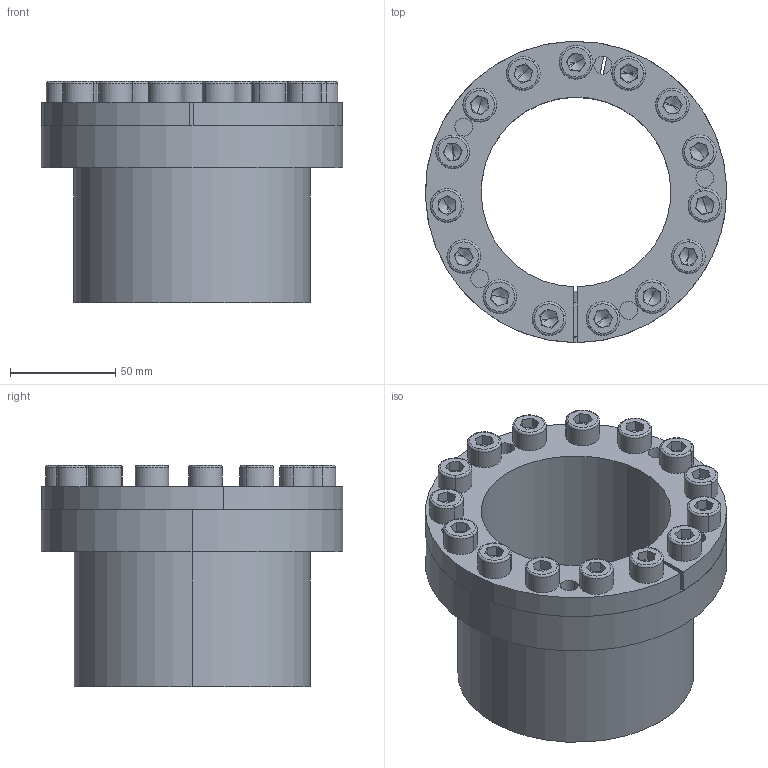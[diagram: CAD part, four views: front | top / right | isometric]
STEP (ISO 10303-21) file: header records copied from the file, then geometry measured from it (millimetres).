
FILE_DESCRIPTION (( 'STEP AP214' ), '1' );
FILE_NAME ('CONEX-B-90x112.step', '2013-04-04T12:42:33', ( 'Pc' ), ( '' ), 'SwSTEP 2.0', 'SolidWorks 2013', '' );
FILE_SCHEMA (( 'AUTOMOTIVE_DESIGN' ));
Length unit declared in the file: millimetre
Products named in the file (1): CONEX-B-90x112
Bounding box: 143 x 143 x 104.92 mm (x, y, z)
Volume: 497513.7 mm3; surface area: 195005 mm2
Topology: 18 solids, 18 shells, 515 faces, 1178 edges, 699 vertices
Faces by surface type: plane 237, cylinder 146, torus 66, cone 66
Entity records: 20272 total; most frequent: DIRECTION 2726, CARTESIAN_POINT 2411, ORIENTED_EDGE 2296, EDGE_CURVE 1148, AXIS2_PLACEMENT_3D 1070, VERTEX_POINT 699, EDGE_LOOP 617, VECTOR 586
